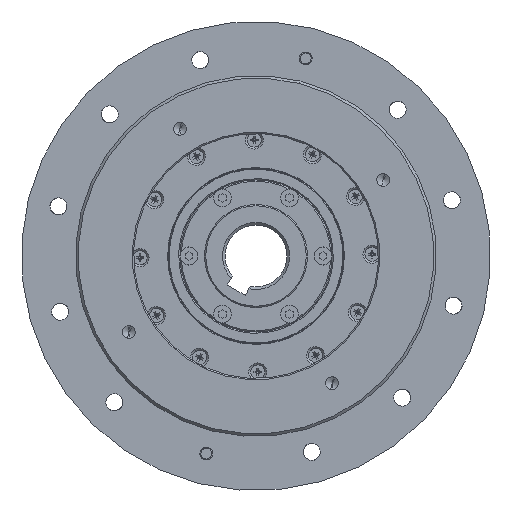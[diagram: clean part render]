
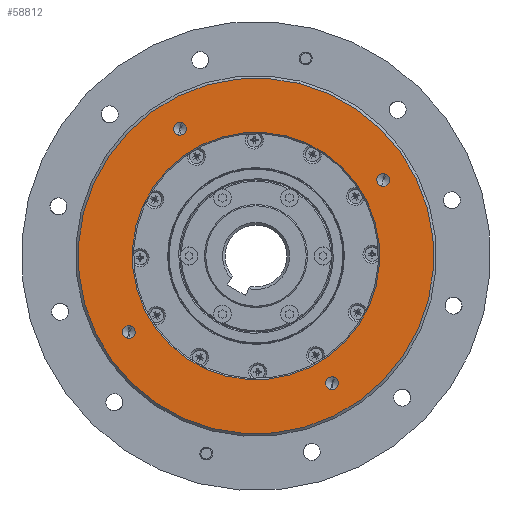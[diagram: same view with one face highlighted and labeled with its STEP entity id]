
A CAD part, left-side view. The second image highlights one B-rep face of the part: STEP entity #58812.
In plain terms, the highlighted planar face has unit normal (-1, 0, 0).
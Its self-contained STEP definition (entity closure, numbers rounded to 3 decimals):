
#1502 = CIRCLE ( 'NONE', #69649, 2.5 ) ;
#1717 = EDGE_CURVE ( 'NONE', #9655, #88670, #57474, .T. ) ;
#2239 = EDGE_LOOP ( 'NONE', ( #72691, #30093 ) ) ;
#2301 = DIRECTION ( 'NONE',  ( 1., 0., 0. ) ) ;
#2670 = ORIENTED_EDGE ( 'NONE', *, *, #53567, .F. ) ;
#3263 = DIRECTION ( 'NONE',  ( -1., 0., 0. ) ) ;
#4709 = DIRECTION ( 'NONE',  ( -1., 0., 0. ) ) ;
#5282 = DIRECTION ( 'NONE',  ( -1., 0., 0. ) ) ;
#5823 = DIRECTION ( 'NONE',  ( -1., 0., 0. ) ) ;
#8004 = EDGE_CURVE ( 'NONE', #51748, #67106, #51380, .T. ) ;
#8010 = ORIENTED_EDGE ( 'NONE', *, *, #8004, .F. ) ;
#9124 = CARTESIAN_POINT ( 'NONE',  ( -8., 11.698, -46.553 ) ) ;
#9341 = CIRCLE ( 'NONE', #53306, 69. ) ;
#9655 = VERTEX_POINT ( 'NONE', #41360 ) ;
#10483 = FACE_BOUND ( 'NONE', #79952, .T. ) ;
#10813 = CARTESIAN_POINT ( 'NONE',  ( -8., 48.732, -27.1 ) ) ;
#12410 = CARTESIAN_POINT ( 'NONE',  ( -8., 0., 0. ) ) ;
#13529 = EDGE_CURVE ( 'NONE', #29500, #81711, #1502, .T. ) ;
#13912 = CIRCLE ( 'NONE', #66888, 2.5 ) ;
#14217 = DIRECTION ( 'NONE',  ( -1., 0., 0. ) ) ;
#14764 = DIRECTION ( 'NONE',  ( 0., -0.244, 0.97 ) ) ;
#16317 = CARTESIAN_POINT ( 'NONE',  ( -8., 49.341, -29.524 ) ) ;
#16935 = AXIS2_PLACEMENT_3D ( 'NONE', #43915, #22488, #51004 ) ;
#19451 = ORIENTED_EDGE ( 'NONE', *, *, #51527, .T. ) ;
#19926 = DIRECTION ( 'NONE',  ( 1., 0., 0. ) ) ;
#21468 = DIRECTION ( 'NONE',  ( 0., -0.244, 0.97 ) ) ;
#21825 = VERTEX_POINT ( 'NONE', #70172 ) ;
#21902 = EDGE_LOOP ( 'NONE', ( #78464, #38041 ) ) ;
#22488 = DIRECTION ( 'NONE',  ( 1., 0., 0. ) ) ;
#22707 = EDGE_CURVE ( 'NONE', #67106, #51748, #70064, .T. ) ;
#22838 = DIRECTION ( 'NONE',  ( -1., 0., 0. ) ) ;
#23459 = DIRECTION ( 'NONE',  ( 0., -0.244, 0.97 ) ) ;
#24277 = ORIENTED_EDGE ( 'NONE', *, *, #51651, .F. ) ;
#25356 = CARTESIAN_POINT ( 'NONE',  ( -8., 29.524, 49.341 ) ) ;
#28973 = DIRECTION ( 'NONE',  ( 0., -0.244, 0.97 ) ) ;
#29500 = VERTEX_POINT ( 'NONE', #37770 ) ;
#29501 = AXIS2_PLACEMENT_3D ( 'NONE', #86241, #19926, #35128 ) ;
#29977 = CARTESIAN_POINT ( 'NONE',  ( -8., 49.341, -29.524 ) ) ;
#30093 = ORIENTED_EDGE ( 'NONE', *, *, #79171, .T. ) ;
#33879 = CIRCLE ( 'NONE', #64034, 2.5 ) ;
#34553 = VERTEX_POINT ( 'NONE', #79270 ) ;
#35108 = CIRCLE ( 'NONE', #16935, 48. ) ;
#35128 = DIRECTION ( 'NONE',  ( 0., 0.244, -0.97 ) ) ;
#37768 = AXIS2_PLACEMENT_3D ( 'NONE', #80313, #38158, #23459 ) ;
#37770 = CARTESIAN_POINT ( 'NONE',  ( -8., 30.133, 46.917 ) ) ;
#37982 = EDGE_CURVE ( 'NONE', #47775, #21825, #61212, .T. ) ;
#38041 = ORIENTED_EDGE ( 'NONE', *, *, #13529, .F. ) ;
#38158 = DIRECTION ( 'NONE',  ( -1., 0., 0. ) ) ;
#39116 = DIRECTION ( 'NONE',  ( -1., 0., 0. ) ) ;
#39679 = ORIENTED_EDGE ( 'NONE', *, *, #37982, .T. ) ;
#39938 = AXIS2_PLACEMENT_3D ( 'NONE', #55903, #4709, #78629 ) ;
#41360 = CARTESIAN_POINT ( 'NONE',  ( -8., -49.951, 31.949 ) ) ;
#43804 = CARTESIAN_POINT ( 'NONE',  ( -8., 29.524, 49.341 ) ) ;
#43915 = CARTESIAN_POINT ( 'NONE',  ( -8., 0., 0. ) ) ;
#44161 = EDGE_CURVE ( 'NONE', #81711, #29500, #33879, .T. ) ;
#44988 = CARTESIAN_POINT ( 'NONE',  ( -8., -16.815, 66.92 ) ) ;
#46380 = AXIS2_PLACEMENT_3D ( 'NONE', #68210, #3263, #75345 ) ;
#46592 = FACE_BOUND ( 'NONE', #21902, .T. ) ;
#47775 = VERTEX_POINT ( 'NONE', #9124 ) ;
#49363 = CARTESIAN_POINT ( 'NONE',  ( -8., -28.915, -51.766 ) ) ;
#50047 = VERTEX_POINT ( 'NONE', #57823 ) ;
#51004 = DIRECTION ( 'NONE',  ( 0., 0.244, -0.97 ) ) ;
#51380 = CIRCLE ( 'NONE', #37768, 2.5 ) ;
#51527 = EDGE_CURVE ( 'NONE', #21825, #47775, #35108, .T. ) ;
#51651 = EDGE_CURVE ( 'NONE', #50047, #72796, #13912, .T. ) ;
#51748 = VERTEX_POINT ( 'NONE', #49363 ) ;
#53185 = PLANE ( 'NONE',  #29501 ) ;
#53306 = AXIS2_PLACEMENT_3D ( 'NONE', #12410, #5282, #93410 ) ;
#53567 = EDGE_CURVE ( 'NONE', #88670, #9655, #61193, .T. ) ;
#53621 = EDGE_LOOP ( 'NONE', ( #19451, #39679 ) ) ;
#53786 = DIRECTION ( 'NONE',  ( -1., 0., 0. ) ) ;
#55390 = ORIENTED_EDGE ( 'NONE', *, *, #58759, .F. ) ;
#55903 = CARTESIAN_POINT ( 'NONE',  ( -8., -29.524, -49.341 ) ) ;
#55981 = AXIS2_PLACEMENT_3D ( 'NONE', #72593, #5823, #14764 ) ;
#57474 = CIRCLE ( 'NONE', #55981, 2.5 ) ;
#57823 = CARTESIAN_POINT ( 'NONE',  ( -8., 49.951, -31.949 ) ) ;
#58759 = EDGE_CURVE ( 'NONE', #72796, #50047, #61235, .T. ) ;
#58812 = ADVANCED_FACE ( 'NONE', ( #62132, #61219, #75393, #60267, #46592, #10483 ), #53185, .F. ) ;
#59760 = AXIS2_PLACEMENT_3D ( 'NONE', #29977, #22838, #59831 ) ;
#59831 = DIRECTION ( 'NONE',  ( 0., -0.244, 0.97 ) ) ;
#59982 = DIRECTION ( 'NONE',  ( 0., -0.244, 0.97 ) ) ;
#60267 = FACE_BOUND ( 'NONE', #75666, .T. ) ;
#61193 = CIRCLE ( 'NONE', #92922, 2.5 ) ;
#61212 = CIRCLE ( 'NONE', #67159, 48. ) ;
#61219 = FACE_OUTER_BOUND ( 'NONE', #2239, .T. ) ;
#61235 = CIRCLE ( 'NONE', #59760, 2.5 ) ;
#62132 = FACE_BOUND ( 'NONE', #53621, .T. ) ;
#64034 = AXIS2_PLACEMENT_3D ( 'NONE', #25356, #39116, #82678 ) ;
#65870 = EDGE_LOOP ( 'NONE', ( #69734, #8010 ) ) ;
#66801 = DIRECTION ( 'NONE',  ( 0., 0.244, -0.97 ) ) ;
#66888 = AXIS2_PLACEMENT_3D ( 'NONE', #16317, #53786, #59982 ) ;
#67106 = VERTEX_POINT ( 'NONE', #93762 ) ;
#67159 = AXIS2_PLACEMENT_3D ( 'NONE', #67253, #2301, #66801 ) ;
#67253 = CARTESIAN_POINT ( 'NONE',  ( -8., 0., 0. ) ) ;
#68210 = CARTESIAN_POINT ( 'NONE',  ( -8., 0., 0. ) ) ;
#69649 = AXIS2_PLACEMENT_3D ( 'NONE', #43804, #72133, #21468 ) ;
#69734 = ORIENTED_EDGE ( 'NONE', *, *, #22707, .F. ) ;
#70064 = CIRCLE ( 'NONE', #39938, 2.5 ) ;
#70172 = CARTESIAN_POINT ( 'NONE',  ( -8., -11.698, 46.553 ) ) ;
#71099 = CARTESIAN_POINT ( 'NONE',  ( -8., -49.341, 29.524 ) ) ;
#72133 = DIRECTION ( 'NONE',  ( -1., 0., 0. ) ) ;
#72593 = CARTESIAN_POINT ( 'NONE',  ( -8., -49.341, 29.524 ) ) ;
#72691 = ORIENTED_EDGE ( 'NONE', *, *, #82223, .T. ) ;
#72796 = VERTEX_POINT ( 'NONE', #10813 ) ;
#74195 = CARTESIAN_POINT ( 'NONE',  ( -8., -48.732, 27.1 ) ) ;
#74714 = VERTEX_POINT ( 'NONE', #44988 ) ;
#75345 = DIRECTION ( 'NONE',  ( 0., 0.244, -0.97 ) ) ;
#75393 = FACE_BOUND ( 'NONE', #65870, .T. ) ;
#75666 = EDGE_LOOP ( 'NONE', ( #76343, #2670 ) ) ;
#76343 = ORIENTED_EDGE ( 'NONE', *, *, #1717, .F. ) ;
#78464 = ORIENTED_EDGE ( 'NONE', *, *, #44161, .F. ) ;
#78629 = DIRECTION ( 'NONE',  ( 0., -0.244, 0.97 ) ) ;
#79171 = EDGE_CURVE ( 'NONE', #74714, #34553, #9341, .T. ) ;
#79270 = CARTESIAN_POINT ( 'NONE',  ( -8., 16.815, -66.92 ) ) ;
#79952 = EDGE_LOOP ( 'NONE', ( #55390, #24277 ) ) ;
#80313 = CARTESIAN_POINT ( 'NONE',  ( -8., -29.524, -49.341 ) ) ;
#81711 = VERTEX_POINT ( 'NONE', #89960 ) ;
#82223 = EDGE_CURVE ( 'NONE', #34553, #74714, #87147, .T. ) ;
#82678 = DIRECTION ( 'NONE',  ( 0., -0.244, 0.97 ) ) ;
#86241 = CARTESIAN_POINT ( 'NONE',  ( -8., 46.068, 11.576 ) ) ;
#87147 = CIRCLE ( 'NONE', #46380, 69. ) ;
#88670 = VERTEX_POINT ( 'NONE', #74195 ) ;
#89960 = CARTESIAN_POINT ( 'NONE',  ( -8., 28.915, 51.766 ) ) ;
#92922 = AXIS2_PLACEMENT_3D ( 'NONE', #71099, #14217, #28973 ) ;
#93410 = DIRECTION ( 'NONE',  ( 0., 0.244, -0.97 ) ) ;
#93762 = CARTESIAN_POINT ( 'NONE',  ( -8., -30.133, -46.917 ) ) ;
